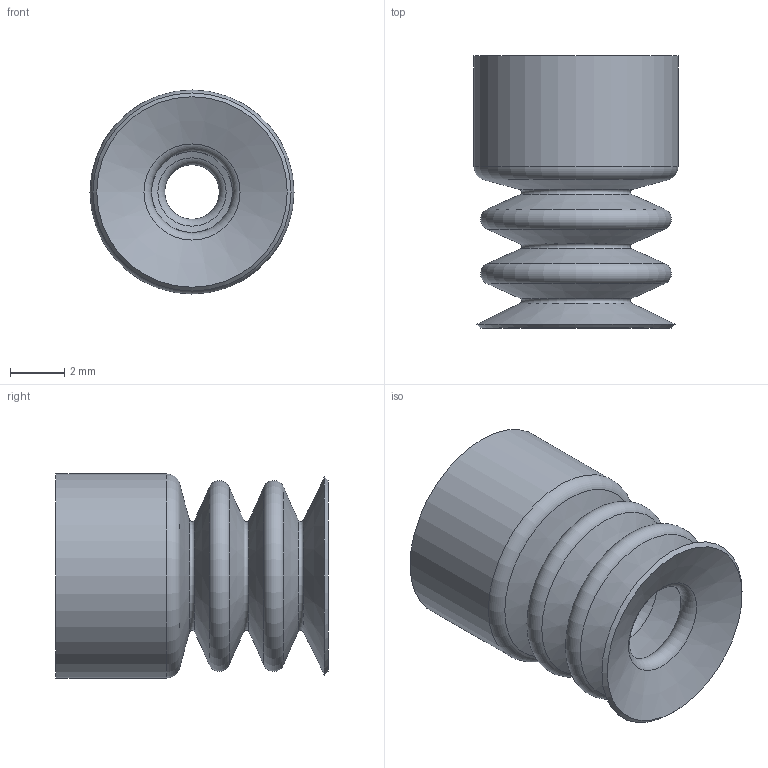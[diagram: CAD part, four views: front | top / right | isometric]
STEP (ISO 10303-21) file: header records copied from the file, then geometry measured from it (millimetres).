
FILE_DESCRIPTION(('STEP AP203'),'1');
FILE_NAME('_3D.stp','2024-06-11T23:17:40',(' '),(' '),'Spatial InterOp 3D',' ',' ');
FILE_SCHEMA(('CONFIG_CONTROL_DESIGN'));
Length unit declared in the file: millimetre
Products named in the file (1): 1
Bounding box: 7.5 x 10 x 7.5 mm (x, y, z)
Volume: 186.6 mm3; surface area: 582 mm2
Topology: 1 solids, 1 shells, 34 faces, 65 edges, 34 vertices
Faces by surface type: torus 15, cone 12, cylinder 4, plane 3
Full cylindrical faces by diameter (mm): 2 x1, 4 x1, 6 x1, 7.5 x1
Entity records: 732 total; most frequent: DIRECTION 138, CARTESIAN_POINT 103, AXIS2_PLACEMENT_3D 69, EDGE_LOOP 68, ORIENTED_EDGE 68, FACE_OUTER_BOUND 53, ADVANCED_FACE 34, EDGE_CURVE 34
